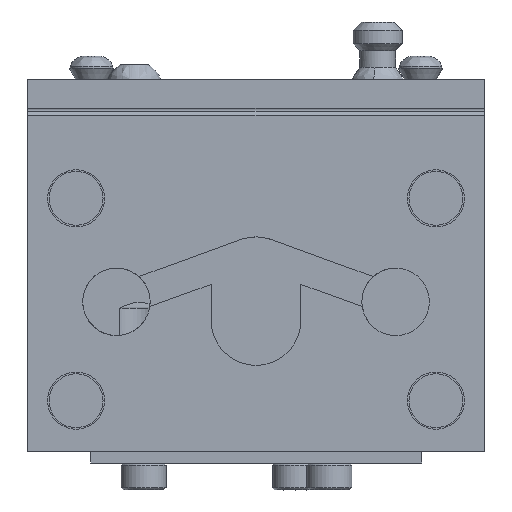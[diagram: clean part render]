
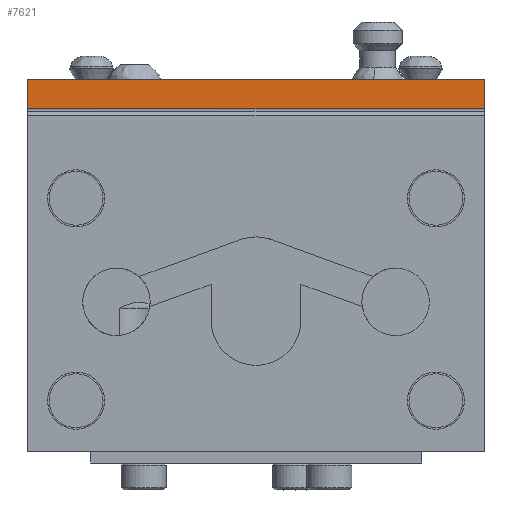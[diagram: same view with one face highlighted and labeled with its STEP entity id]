
A CAD part, front view. The second image highlights one B-rep face of the part: STEP entity #7621.
In plain terms, the highlighted planar face has unit normal (0, -1, 0).
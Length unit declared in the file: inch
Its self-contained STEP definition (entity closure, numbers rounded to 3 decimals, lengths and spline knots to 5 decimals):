
#271 = ORIENTED_EDGE ( 'NONE', *, *, #11799, .T. ) ;
#597 = DIRECTION ( 'NONE',  ( 0., -1., 0. ) ) ;
#803 = PLANE ( 'NONE',  #9169 ) ;
#1166 = LINE ( 'NONE', #20006, #15052 ) ;
#2190 = LINE ( 'NONE', #9526, #19199 ) ;
#2326 = DIRECTION ( 'NONE',  ( 0., 0., -1. ) ) ;
#3450 = VERTEX_POINT ( 'NONE', #10088 ) ;
#4035 = CARTESIAN_POINT ( 'NONE',  ( 1.05713, -1.7659, 0.71216 ) ) ;
#4660 = VERTEX_POINT ( 'NONE', #7406 ) ;
#5369 = CARTESIAN_POINT ( 'NONE',  ( -2.94287, -1.7659, 0.46216 ) ) ;
#6026 = DIRECTION ( 'NONE',  ( 0., 0., -1. ) ) ;
#7069 = VECTOR ( 'NONE', #15510, 39.37008 ) ;
#7406 = CARTESIAN_POINT ( 'NONE',  ( 1.05713, -1.7659, 0.46216 ) ) ;
#7621 = ADVANCED_FACE ( 'NONE', ( #14772 ), #803, .T. ) ;
#7744 = CARTESIAN_POINT ( 'NONE',  ( -2.94287, -1.7659, 0.46216 ) ) ;
#7750 = CARTESIAN_POINT ( 'NONE',  ( 1.05713, -1.7659, -2.53784 ) ) ;
#9169 = AXIS2_PLACEMENT_3D ( 'NONE', #5369, #597, #2326 ) ;
#9289 = LINE ( 'NONE', #7750, #7069 ) ;
#9526 = CARTESIAN_POINT ( 'NONE',  ( -2.94287, -1.7659, 0.71216 ) ) ;
#9746 = EDGE_CURVE ( 'NONE', #15382, #3450, #1166, .T. ) ;
#10088 = CARTESIAN_POINT ( 'NONE',  ( -2.94287, -1.7659, 0.46216 ) ) ;
#10903 = LINE ( 'NONE', #7744, #14663 ) ;
#11355 = EDGE_CURVE ( 'NONE', #16385, #15382, #2190, .T. ) ;
#11367 = EDGE_LOOP ( 'NONE', ( #271, #18158, #12099, #12517 ) ) ;
#11799 = EDGE_CURVE ( 'NONE', #3450, #4660, #10903, .T. ) ;
#12099 = ORIENTED_EDGE ( 'NONE', *, *, #11355, .T. ) ;
#12517 = ORIENTED_EDGE ( 'NONE', *, *, #9746, .T. ) ;
#14663 = VECTOR ( 'NONE', #15122, 39.37008 ) ;
#14772 = FACE_OUTER_BOUND ( 'NONE', #11367, .T. ) ;
#15052 = VECTOR ( 'NONE', #6026, 39.37008 ) ;
#15122 = DIRECTION ( 'NONE',  ( 1., 0., 0. ) ) ;
#15382 = VERTEX_POINT ( 'NONE', #15773 ) ;
#15510 = DIRECTION ( 'NONE',  ( 0., 0., 1. ) ) ;
#15773 = CARTESIAN_POINT ( 'NONE',  ( -2.94287, -1.7659, 0.71216 ) ) ;
#16385 = VERTEX_POINT ( 'NONE', #4035 ) ;
#17591 = DIRECTION ( 'NONE',  ( -1., 0., 0. ) ) ;
#18158 = ORIENTED_EDGE ( 'NONE', *, *, #18510, .T. ) ;
#18510 = EDGE_CURVE ( 'NONE', #4660, #16385, #9289, .T. ) ;
#19199 = VECTOR ( 'NONE', #17591, 39.37008 ) ;
#20006 = CARTESIAN_POINT ( 'NONE',  ( -2.94287, -1.7659, -2.53784 ) ) ;
